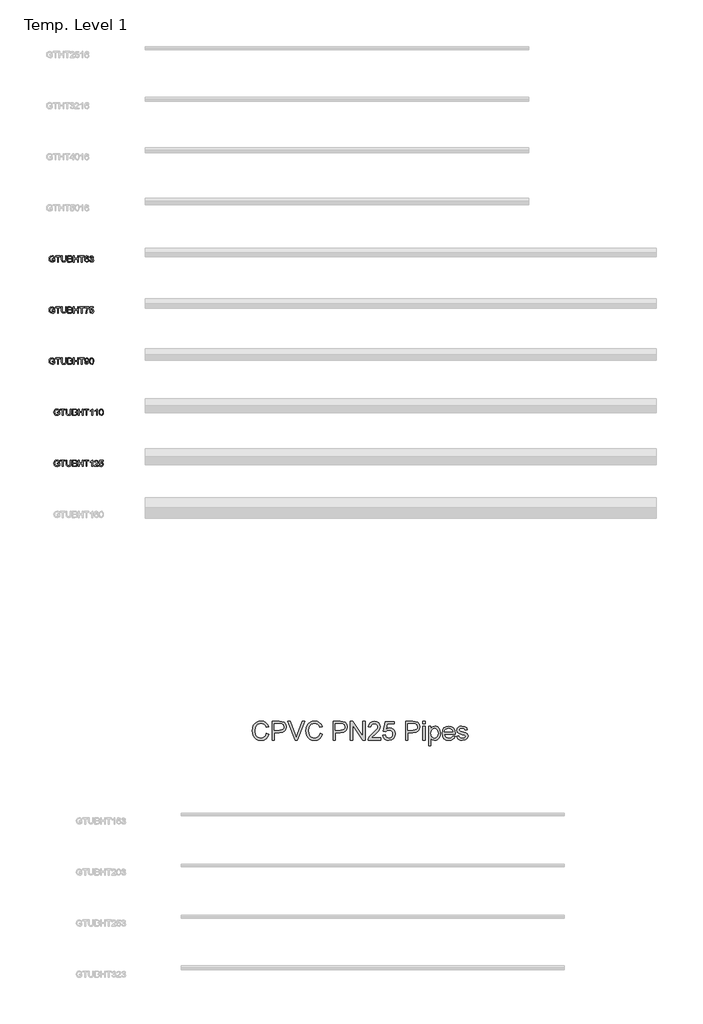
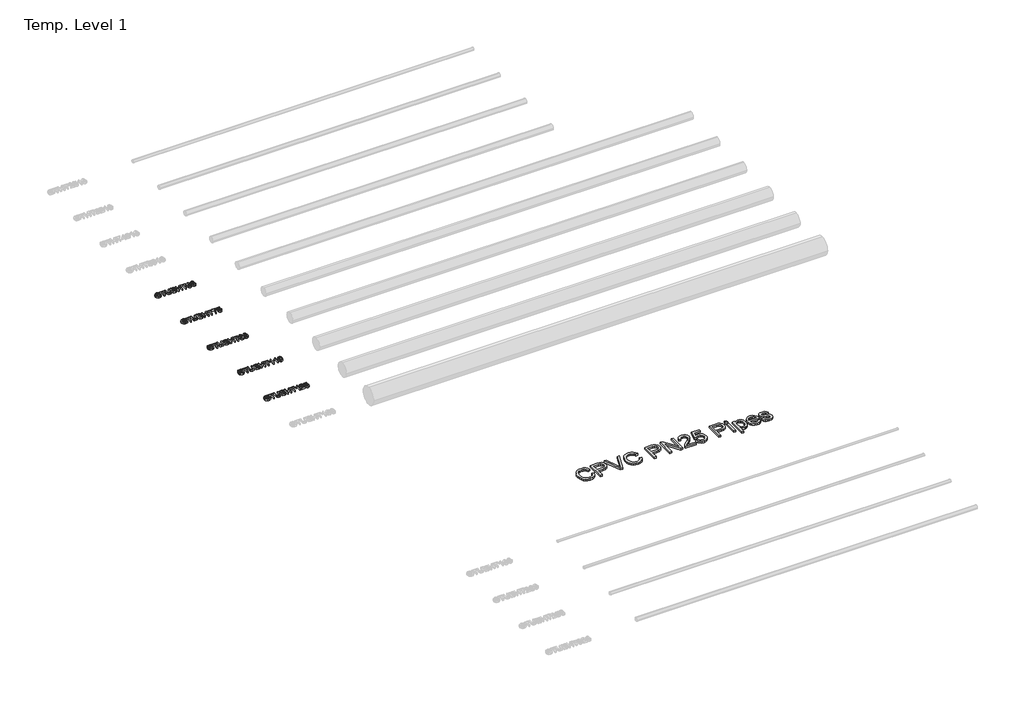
# One storey, part 8 of 62: 6 proxies.
"""IFC4 building model written with IfcOpenShell, lengths in millimetres."""

from ifc_helpers import new_model, si_unit, origin, origin_with_axes, place, context, project, spatial, polyline, outline, extrude, element, save

model = new_model("IFC4")

# Units and contexts
model_context = context("Model", 3, world=origin())
ifc_project = project(units=[si_unit("LENGTHUNIT", "METRE", prefix="MILLI")], contexts=[model_context])

# Site, building, storey
site = spatial("IfcSite", under=ifc_project)
building = spatial("IfcBuilding", under=site)
storey = spatial("IfcBuildingStorey", under=building, Name="Temp. Level 1", Elevation=0.0)

# Proxies
placement = place(None, origin())
element("IfcBuildingElementProxy", 1, Name="150mm Arial", ObjectType="150mm Arial", at=placement, inside=storey, context=model_context, shape_type="SweptSolid", body=[
    extrude(outline(polyline([(3911.5022519, -3988.4933589), (3929.9637904, -3993.2529743), (3921.4451606, -4014.765895), (3908.0767712, -4030.4825416), (3890.516675, -4040.0964238), (3869.422925, -4043.3010512), (3848.009163, -4040.8761714), (3831.0034538, -4033.601532), (3817.9685981, -4021.7295368), (3808.4673962, -4005.5125897), (3802.6666149, -3986.4470849), (3800.7330212, -3966.0294166), (3802.9190188, -3944.4939599), (3809.4770115, -3925.8972051), (3820.0644514, -3910.8295969), (3834.3387904, -3899.8815801), (3851.2678769, -3893.2154142), (3869.8195596, -3890.9933589), (3890.0614466, -3893.8689599), (3906.7967231, -3902.4957628), (3919.5025524, -3916.3419166), (3927.6560981, -3934.8755704), (3909.1945596, -3939.2746089), (3902.7943192, -3925.811568), (3894.0503288, -3916.5762916), (3882.8544154, -3911.2352459), (3869.0984058, -3909.4548974), (3853.2420356, -3911.429056), (3840.2161942, -3917.351532), (3830.3318793, -3926.6003301), (3823.9000885, -3938.5534551), (3819.1945596, -3965.9933589), (3824.7654731, -3997.7962435), (3831.8868673, -4009.6727459), (3842.1092231, -4018.1147531), (3854.3643313, -4023.1583229), (3867.5839827, -4024.8395128), (3882.9941389, -4022.5498493), (3895.8351846, -4015.6808589), (3905.5301966, -4004.304657), (3911.5022519, -3988.4933589)])), origin_with_axes(), (0.0, 0.0, 1.0), 15.0),
    extrude(outline(polyline([(3955.3484058, -4040.9933589), (3955.3484058, -3893.3010512), (4010.0839827, -3893.3010512), (4032.1512904, -3894.7073012), (4050.0899923, -3901.6123493), (4061.7185981, -3915.8911954), (4066.1176365, -3936.0294166), (4063.1473841, -3953.4362676), (4054.2366269, -3967.9404743), (4037.5734659, -3977.7301378), (4011.3460019, -3980.9933589), (3973.8099442, -3980.9933589), (3973.8099442, -4040.9933589), (3955.3484058, -4040.9933589)]), holes=[polyline([(3973.8099442, -3962.5318204), (4012.4277327, -3962.5318204), (4028.797925, -3960.8371089), (4039.6152327, -3955.7529743), (4045.6458817, -3947.5949214), (4047.6560981, -3936.6784551), (4042.9145115, -3921.3899935), (4030.4565788, -3913.0246089), (4011.9950404, -3911.7625897), (3973.8099442, -3911.7625897), (3973.8099442, -3962.5318204)])]), origin_with_axes(), (0.0, 0.0, 1.0), 15.0),
    extrude(outline(polyline([(4135.1320596, -4040.9933589), (4076.3580212, -3893.3010512), (4096.1176365, -3893.3010512), (4135.4565788, -3999.7073012), (4143.4253288, -4023.6856666), (4151.2859058, -3999.7073012), (4190.7330212, -3893.3010512), (4210.4926365, -3893.3010512), (4154.2065788, -4040.9933589), (4135.1320596, -4040.9933589)])), origin_with_axes(), (0.0, 0.0, 1.0), 15.0),
    extrude(outline(polyline([(4331.5022519, -3988.4933589), (4349.9637904, -3993.2529743), (4341.4451606, -4014.765895), (4328.0767712, -4030.4825416), (4310.516675, -4040.0964238), (4289.422925, -4043.3010512), (4268.009163, -4040.8761714), (4251.0034538, -4033.601532), (4237.9685981, -4021.7295368), (4228.4673962, -4005.5125897), (4222.6666149, -3986.4470849), (4220.7330212, -3966.0294166), (4222.9190188, -3944.4939599), (4229.4770115, -3925.8972051), (4240.0644514, -3910.8295969), (4254.3387904, -3899.8815801), (4271.2678769, -3893.2154142), (4289.8195596, -3890.9933589), (4310.0614466, -3893.8689599), (4326.7967231, -3902.4957628), (4339.5025524, -3916.3419166), (4347.6560981, -3934.8755704), (4329.1945596, -3939.2746089), (4322.7943192, -3925.811568), (4314.0503288, -3916.5762916), (4302.8544154, -3911.2352459), (4289.0984058, -3909.4548974), (4273.2420356, -3911.429056), (4260.2161942, -3917.351532), (4250.3318793, -3926.6003301), (4243.9000885, -3938.5534551), (4239.1945596, -3965.9933589), (4244.7654731, -3997.7962435), (4251.8868673, -4009.6727459), (4262.1092231, -4018.1147531), (4274.3643313, -4023.1583229), (4287.5839827, -4024.8395128), (4302.9941389, -4022.5498493), (4315.8351846, -4015.6808589), (4325.5301966, -4004.304657), (4331.5022519, -3988.4933589)])), origin_with_axes(), (0.0, 0.0, 1.0), 15.0),
    extrude(outline(polyline([(4433.0407135, -4040.9933589), (4433.0407135, -3893.3010512), (4487.7762904, -3893.3010512), (4509.8435981, -3894.7073012), (4527.7823, -3901.6123493), (4539.4109058, -3915.8911954), (4543.8099442, -3936.0294166), (4540.8396918, -3953.4362676), (4531.9289346, -3967.9404743), (4515.2657736, -3977.7301378), (4489.0383096, -3980.9933589), (4451.5022519, -3980.9933589), (4451.5022519, -4040.9933589), (4433.0407135, -4040.9933589)]), holes=[polyline([(4451.5022519, -3962.5318204), (4490.1200404, -3962.5318204), (4506.4902327, -3960.8371089), (4517.3075404, -3955.7529743), (4523.3381894, -3947.5949214), (4525.3484058, -3936.6784551), (4520.6068192, -3921.3899935), (4508.1488865, -3913.0246089), (4489.6873481, -3911.7625897), (4451.5022519, -3911.7625897), (4451.5022519, -3962.5318204)])]), origin_with_axes(), (0.0, 0.0, 1.0), 15.0),
    extrude(outline(polyline([(4569.1945596, -4040.9933589), (4569.1945596, -3893.3010512), (4588.954175, -3893.3010512), (4666.1176365, -4010.3082628), (4666.1176365, -3893.3010512), (4684.579175, -3893.3010512), (4684.579175, -4040.9933589), (4664.8195596, -4040.9933589), (4587.6560981, -3923.9500897), (4587.6560981, -4040.9933589), (4569.1945596, -4040.9933589)])), origin_with_axes(), (0.0, 0.0, 1.0), 15.0),
    extrude(outline(polyline([(4804.579175, -4022.5318204), (4804.579175, -4040.9933589), (4707.6560981, -4040.9933589), (4709.6392712, -4028.2649935), (4720.8532135, -4008.6676378), (4743.9661942, -3987.2673974), (4775.8411942, -3956.5101858), (4781.8177567, -3945.9092243), (4783.8099442, -3935.5967243), (4781.930437, -3926.3524334), (4776.2919154, -3918.6676378), (4767.6245476, -3913.4888517), (4756.6585019, -3911.7625897), (4745.1425764, -3913.4482868), (4736.1957615, -3918.5053781), (4730.4220236, -3926.5372291), (4728.4253288, -3937.1472051), (4709.9637904, -3934.8395128), (4714.4394514, -3916.9819406), (4724.1164346, -3903.9380704), (4738.4899322, -3895.960306), (4757.0551365, -3893.3010512), (4775.7555572, -3896.257782), (4790.1020115, -3905.1279743), (4799.2291149, -3918.3791762), (4802.2714827, -3934.4789358), (4798.9902327, -3951.9849454), (4788.0827808, -3970.085907), (4761.6344635, -3995.3803781), (4740.3964827, -4013.1387916), (4732.0671558, -4022.5318204), (4804.579175, -4022.5318204)])), origin_with_axes(), (0.0, 0.0, 1.0), 15.0),
    extrude(outline(polyline([(4823.0407135, -4001.7625897), (4841.5022519, -3999.4548974), (4844.891675, -4010.5381305), (4850.8051365, -4018.4753301), (4859.2155933, -4023.2484671), (4870.0960019, -4024.8395128), (4883.329175, -4022.6264719), (4893.2450404, -4015.9873493), (4899.437949, -4005.6883709), (4901.5022519, -3992.4957628), (4899.5686582, -3980.0738878), (4893.7678769, -3970.5726858), (4884.0548361, -3964.5420368), (4870.3844635, -3962.5318204), (4854.1765308, -3965.7409551), (4843.8099442, -3974.070282), (4825.3484058, -3971.7625897), (4841.5022519, -3895.6087435), (4913.0407135, -3895.6087435), (4913.0407135, -3914.070282), (4856.4301365, -3914.070282), (4848.5335019, -3954.7433589), (4861.7216029, -3946.7385512), (4875.5407135, -3944.070282), (4892.789812, -3947.3785753), (4907.1092231, -3957.3034551), (4916.7501486, -3972.429657), (4919.9637904, -3991.3419166), (4917.0701606, -4009.8034551), (4908.3892712, -4025.5967243), (4891.766675, -4038.8749695), (4870.0238865, -4043.3010512), (4851.8913745, -4040.4570007), (4837.4457615, -4031.9248493), (4827.5434178, -4018.6961834), (4823.0407135, -4001.7625897)])), origin_with_axes(), (0.0, 0.0, 1.0), 15.0),
    extrude(outline(polyline([(5000.7330212, -4040.9933589), (5000.7330212, -3893.3010512), (5055.4685981, -3893.3010512), (5077.5359058, -3894.7073012), (5095.4746077, -3901.6123493), (5107.1032135, -3915.8911954), (5111.5022519, -3936.0294166), (5108.5319995, -3953.4362676), (5099.6212423, -3967.9404743), (5082.9580813, -3977.7301378), (5056.7306173, -3980.9933589), (5019.1945596, -3980.9933589), (5019.1945596, -4040.9933589), (5000.7330212, -4040.9933589)]), holes=[polyline([(5019.1945596, -3962.5318204), (5057.8123481, -3962.5318204), (5074.1825404, -3960.8371089), (5084.9998481, -3955.7529743), (5091.0304971, -3947.5949214), (5093.0407135, -3936.6784551), (5088.2991269, -3921.3899935), (5075.8411942, -3913.0246089), (5057.3796558, -3911.7625897), (5019.1945596, -3911.7625897), (5019.1945596, -3962.5318204)])]), origin_with_axes(), (0.0, 0.0, 1.0), 15.0),
    extrude(outline(polyline([(5134.579175, -3911.7625897), (5134.579175, -3893.3010512), (5153.0407135, -3893.3010512), (5153.0407135, -3911.7625897), (5134.579175, -3911.7625897)])), origin_with_axes(), (0.0, 0.0, 1.0), 15.0),
    extrude(outline(polyline([(5134.579175, -4040.9933589), (5134.579175, -3932.5318204), (5153.0407135, -3932.5318204), (5153.0407135, -4040.9933589), (5134.579175, -4040.9933589)])), origin_with_axes(), (0.0, 0.0, 1.0), 15.0),
    extrude(outline(polyline([(5180.7330212, -4082.5318204), (5180.7330212, -3932.5318204), (5199.1945596, -3932.5318204), (5199.1945596, -3950.632782), (5211.9589827, -3935.3262916), (5229.1945596, -3930.2241281), (5241.6795356, -3932.0089839), (5252.5960019, -3937.3635512), (5261.4842231, -3945.9633108), (5267.8844635, -3957.4837435), (5273.0407135, -3985.9332628), (5271.5848841, -4001.7220248), (5267.2173962, -4015.8431185), (5260.0779731, -4027.5798974), (5250.3063385, -4036.2157147), (5238.9256293, -4041.5297171), (5226.9589827, -4043.3010512), (5210.8952808, -4038.5594647), (5199.1945596, -4026.570282), (5199.1945596, -4082.5318204), (5180.7330212, -4082.5318204)]), holes=[polyline([(5199.1945596, -3987.6279743), (5201.1912543, -4004.1784551), (5207.1813385, -4015.7529743), (5216.0199803, -4022.5678781), (5226.5623481, -4024.8395128), (5237.2759899, -4022.4867483), (5246.3399923, -4015.4284551), (5252.5193793, -4003.4302579), (5254.579175, -3986.257782), (5252.5689587, -3969.7974454), (5246.5383096, -3958.0606666), (5237.7131894, -3951.0294166), (5227.3195596, -3948.6856666), (5216.8853649, -3951.1781546), (5207.7222038, -3958.6556185), (5201.3264707, -3970.8836834), (5199.1945596, -3987.6279743)])]), origin_with_axes(), (0.0, 0.0, 1.0), 15.0),
    extrude(outline(polyline([(5369.7474442, -4008.6856666), (5387.8484058, -4010.9933589), (5381.3264707, -4024.632181), (5370.9193192, -4034.8274935), (5356.8613264, -4041.1826618), (5339.3868673, -4043.3010512), (5317.7252087, -4039.6457027), (5301.0575404, -4028.679657), (5290.4295356, -4011.1150536), (5286.8868673, -3987.664032), (5290.4655933, -3963.4242483), (5301.2017712, -3945.2962435), (5317.6440788, -3933.992157), (5338.3411942, -3930.2241281), (5358.3937784, -3933.9831426), (5374.4169154, -3945.2601858), (5384.9232255, -3963.3521329), (5388.4253288, -3987.5558589), (5388.3171558, -3992.5318204), (5305.3484058, -3992.5318204), (5308.5440188, -4006.350931), (5315.9673962, -4016.5101858), (5326.681038, -4022.757181), (5339.7474442, -4024.8395128), (5357.8484058, -4020.9813397), (5369.7474442, -4008.6856666)]), holes=[polyline([(5305.3484058, -3974.070282), (5369.9637904, -3974.070282), (5367.4667952, -3964.3166762), (5362.5719635, -3957.3395128), (5351.8087423, -3950.8491281), (5338.2690788, -3948.6856666), (5325.8246678, -3950.4119286), (5315.5347038, -3955.5907147), (5308.3817591, -3963.6631305), (5305.3484058, -3974.070282)])]), origin_with_axes(), (0.0, 0.0, 1.0), 15.0),
    extrude(outline(polyline([(5399.9637904, -4008.6856666), (5418.4253288, -4006.3779743), (5421.3369875, -4014.2746089), (5426.9710019, -4020.0798974), (5446.5503288, -4024.8395128), (5465.3724442, -4020.476532), (5471.5022519, -4010.2361474), (5465.3363865, -4001.9428781), (5446.3339827, -3996.6784551), (5418.5335019, -3987.6460031), (5406.4000885, -3977.0991281), (5402.2714827, -3962.2073012), (5405.5887904, -3948.4512916), (5414.6392712, -3937.9404743), (5426.37605, -3932.4777339), (5442.2594635, -3930.2241281), (5464.7234058, -3933.8479262), (5479.0022519, -3943.6556185), (5485.3484058, -3960.2241281), (5466.8868673, -3962.5318204), (5459.9457615, -3952.3455224), (5443.7017712, -3948.6856666), (5426.0335019, -3952.1832628), (5420.7330212, -3960.3323012), (5422.9325404, -3965.7048974), (5429.8195596, -3969.7794166), (5445.7210019, -3973.7097051), (5472.8183577, -3982.3996089), (5485.4024923, -3992.2433589), (5489.9637904, -4008.289032), (5484.6092231, -4025.9573012), (5469.1585019, -4038.7758108), (5446.297925, -4043.3010512), (5427.6831413, -4041.1195608), (5414.0984058, -4034.5750897), (5405.0298962, -4023.7397531), (5399.9637904, -4008.6856666)])), origin_with_axes(), (0.0, 0.0, 1.0), 15.0),
])
element("IfcBuildingElementProxy", 2, Name="50mm Arial", ObjectType="50mm Arial", at=placement, inside=storey, context=model_context, shape_type="SweptSolid", body=[
    extrude(outline(polyline([(2234.4064463, -278.4984888), (2234.4064463, -272.3446426), (2254.4064463, -272.3446426), (2254.4064463, -290.7460849), (2244.5326483, -296.5513734), (2234.0939463, -298.4984888), (2220.9509175, -295.4035368), (2212.0326483, -286.4432003), (2209.0218309, -273.354258), (2212.020629, -259.9708445), (2220.6444271, -250.7460849), (2233.6011579, -247.729258), (2243.2285617, -249.4780561), (2249.9773598, -254.3458445), (2253.6973117, -262.4888734), (2248.0242348, -264.0874311), (2245.2177444, -258.3963253), (2240.4220713, -255.1150753), (2233.505004, -253.8831042), (2225.6263983, -255.2112292), (2220.2658213, -258.6968061), (2217.098754, -263.4383926), (2215.1756771, -273.1018542), (2217.489379, -283.8290176), (2224.2201483, -290.2472868), (2233.6011579, -292.3446426), (2242.020629, -290.7641138), (2248.2526002, -287.3927195), (2248.2526002, -278.4984888), (2234.4064463, -278.4984888)])), origin_with_axes(), (0.0, 0.0, 1.0), 15.0),
    extrude(outline(polyline([(2276.7141386, -297.729258), (2276.7141386, -254.6523349), (2260.5602925, -254.6523349), (2260.5602925, -248.4984888), (2299.0218309, -248.4984888), (2299.0218309, -254.6523349), (2282.8679848, -254.6523349), (2282.8679848, -297.729258), (2276.7141386, -297.729258)])), origin_with_axes(), (0.0, 0.0, 1.0), 15.0),
    extrude(outline(polyline([(2338.2526002, -248.4984888), (2344.4064463, -248.4984888), (2344.4064463, -276.8999311), (2342.7357733, -288.6727676), (2336.7141386, -295.7641138), (2325.2958694, -298.4984888), (2314.051879, -296.1186811), (2307.8138983, -289.2256522), (2305.9449079, -276.8999311), (2305.9449079, -248.4984888), (2312.098754, -248.4984888), (2312.098754, -276.6835849), (2313.3126963, -286.0645945), (2317.4833694, -290.7100272), (2324.7189463, -292.3446426), (2335.1396194, -289.1114695), (2338.2526002, -276.6835849), (2338.2526002, -248.4984888)])), origin_with_axes(), (0.0, 0.0, 1.0), 15.0),
    extrude(outline(polyline([(2355.1756771, -297.729258), (2355.1756771, -248.4984888), (2373.9617348, -248.4984888), (2383.1624559, -249.9468061), (2388.5951483, -254.3999311), (2390.5602925, -260.698008), (2388.9076483, -266.4492099), (2383.9136579, -270.8061811), (2389.9773598, -275.3975272), (2392.098754, -283.0537772), (2390.6504367, -289.6703638), (2387.0626963, -294.3819022), (2381.708129, -296.8819022), (2373.817504, -297.729258), (2355.1756771, -297.729258)]), holes=[polyline([(2361.3295233, -291.5754118), (2373.9497156, -291.5754118), (2378.5170233, -291.3350272), (2382.3812059, -289.994883), (2384.9413021, -287.260508), (2385.9449079, -283.1138734), (2384.7670233, -278.3302195), (2380.9509175, -275.4756522), (2373.348754, -274.6523349), (2361.3295233, -274.6523349), (2361.3295233, -291.5754118)]), polyline([(2361.3295233, -268.4984888), (2372.567504, -268.4984888), (2379.130004, -267.9696426), (2383.0783213, -265.6919984), (2384.4064463, -261.6835849), (2383.1684656, -257.6691618), (2379.6227925, -255.2953638), (2371.7141386, -254.6523349), (2361.3295233, -254.6523349), (2361.3295233, -268.4984888)])]), origin_with_axes(), (0.0, 0.0, 1.0), 15.0),
    extrude(outline(polyline([(2400.5602925, -297.729258), (2400.5602925, -248.4984888), (2406.7141386, -248.4984888), (2406.7141386, -268.4984888), (2432.8679848, -268.4984888), (2432.8679848, -248.4984888), (2439.0218309, -248.4984888), (2439.0218309, -297.729258), (2432.8679848, -297.729258), (2432.8679848, -274.6523349), (2406.7141386, -274.6523349), (2406.7141386, -297.729258), (2400.5602925, -297.729258)])), origin_with_axes(), (0.0, 0.0, 1.0), 15.0),
    extrude(outline(polyline([(2462.098754, -297.729258), (2462.098754, -254.6523349), (2445.9449079, -254.6523349), (2445.9449079, -248.4984888), (2484.4064463, -248.4984888), (2484.4064463, -254.6523349), (2468.2526002, -254.6523349), (2468.2526002, -297.729258), (2462.098754, -297.729258)])), origin_with_axes(), (0.0, 0.0, 1.0), 15.0),
    extrude(outline(polyline([(2520.5602925, -261.5754118), (2514.4064463, -262.3446426), (2512.0747156, -257.2124311), (2505.9088502, -254.6523349), (2500.3559656, -256.1427195), (2496.1552444, -261.7376715), (2494.4064463, -272.7052195), (2499.833129, -267.7953638), (2506.5578886, -266.1907965), (2517.0146194, -270.5778157), (2521.3295233, -281.9119503), (2519.2982733, -290.4035368), (2513.7093309, -296.4131522), (2505.6444271, -298.4984888), (2493.1023598, -292.9696426), (2489.4650401, -285.6499311), (2488.2526002, -274.7484888), (2489.598754, -262.4918782), (2493.6372156, -254.1114695), (2499.1510377, -249.901734), (2506.2934656, -248.4984888), (2516.0170233, -251.9720465), (2520.5602925, -261.5754118)]), holes=[polyline([(2494.4064463, -281.8157965), (2495.8307252, -287.1463253), (2499.6167829, -291.0165176), (2505.1636579, -292.3446426), (2512.4172636, -289.5922388), (2515.1756771, -282.1162772), (2512.4533213, -274.9588253), (2504.911254, -272.3446426), (2497.4653406, -274.9588253), (2494.4064463, -281.8157965)])]), origin_with_axes(), (0.0, 0.0, 1.0), 15.0),
    extrude(outline(polyline([(2526.7141386, -284.6523349), (2532.8679848, -283.8831042), (2536.2634175, -290.3614695), (2542.6155809, -292.3446426), (2550.0915425, -289.6162772), (2552.8679848, -282.8614695), (2550.1155809, -276.4972868), (2543.1203886, -273.979258), (2538.8054848, -274.6523349), (2539.4905809, -268.4984888), (2547.4593309, -266.8037772), (2550.5602925, -261.3710849), (2548.3126963, -256.557383), (2542.5194271, -254.6523349), (2536.6540425, -256.5754118), (2533.6372156, -262.3446426), (2527.4833694, -261.5754118), (2532.5194271, -251.9239695), (2542.3030809, -248.4984888), (2549.7249559, -250.1871907), (2554.9172636, -254.8025753), (2556.7141386, -261.010508), (2555.0074079, -266.6835849), (2549.9593309, -270.7581042), (2556.6660617, -274.9648349), (2559.0218309, -282.9696426), (2554.3102925, -293.979258), (2542.3992348, -298.4984888), (2531.6059656, -294.6403157), (2526.7141386, -284.6523349)])), origin_with_axes(), (0.0, 0.0, 1.0), 15.0),
])
element("IfcBuildingElementProxy", 3, Name="50mm Arial", ObjectType="50mm Arial", at=placement, inside=storey, context=model_context, shape_type="SweptSolid", body=[
    extrude(outline(polyline([(2234.4064463, -678.4984888), (2234.4064463, -672.3446426), (2254.4064463, -672.3446426), (2254.4064463, -690.7460849), (2244.5326483, -696.5513734), (2234.0939463, -698.4984888), (2220.9509175, -695.4035368), (2212.0326483, -686.4432003), (2209.0218309, -673.354258), (2212.020629, -659.9708445), (2220.6444271, -650.7460849), (2233.6011579, -647.729258), (2243.2285617, -649.4780561), (2249.9773598, -654.3458445), (2253.6973117, -662.4888734), (2248.0242348, -664.0874311), (2245.2177444, -658.3963253), (2240.4220713, -655.1150753), (2233.505004, -653.8831042), (2225.6263983, -655.2112292), (2220.2658213, -658.6968061), (2217.098754, -663.4383926), (2215.1756771, -673.1018542), (2217.489379, -683.8290176), (2224.2201483, -690.2472868), (2233.6011579, -692.3446426), (2242.020629, -690.7641138), (2248.2526002, -687.3927195), (2248.2526002, -678.4984888), (2234.4064463, -678.4984888)])), origin_with_axes(), (0.0, 0.0, 1.0), 15.0),
    extrude(outline(polyline([(2276.7141386, -697.729258), (2276.7141386, -654.6523349), (2260.5602925, -654.6523349), (2260.5602925, -648.4984888), (2299.0218309, -648.4984888), (2299.0218309, -654.6523349), (2282.8679848, -654.6523349), (2282.8679848, -697.729258), (2276.7141386, -697.729258)])), origin_with_axes(), (0.0, 0.0, 1.0), 15.0),
    extrude(outline(polyline([(2338.2526002, -648.4984888), (2344.4064463, -648.4984888), (2344.4064463, -676.8999311), (2342.7357733, -688.6727676), (2336.7141386, -695.7641138), (2325.2958694, -698.4984888), (2314.051879, -696.1186811), (2307.8138983, -689.2256522), (2305.9449079, -676.8999311), (2305.9449079, -648.4984888), (2312.098754, -648.4984888), (2312.098754, -676.6835849), (2313.3126963, -686.0645945), (2317.4833694, -690.7100272), (2324.7189463, -692.3446426), (2335.1396194, -689.1114695), (2338.2526002, -676.6835849), (2338.2526002, -648.4984888)])), origin_with_axes(), (0.0, 0.0, 1.0), 15.0),
    extrude(outline(polyline([(2355.1756771, -697.729258), (2355.1756771, -648.4984888), (2373.9617348, -648.4984888), (2383.1624559, -649.9468061), (2388.5951483, -654.3999311), (2390.5602925, -660.698008), (2388.9076483, -666.4492099), (2383.9136579, -670.8061811), (2389.9773598, -675.3975272), (2392.098754, -683.0537772), (2390.6504367, -689.6703638), (2387.0626963, -694.3819022), (2381.708129, -696.8819022), (2373.817504, -697.729258), (2355.1756771, -697.729258)]), holes=[polyline([(2361.3295233, -691.5754118), (2373.9497156, -691.5754118), (2378.5170233, -691.3350272), (2382.3812059, -689.994883), (2384.9413021, -687.260508), (2385.9449079, -683.1138734), (2384.7670233, -678.3302195), (2380.9509175, -675.4756522), (2373.348754, -674.6523349), (2361.3295233, -674.6523349), (2361.3295233, -691.5754118)]), polyline([(2361.3295233, -668.4984888), (2372.567504, -668.4984888), (2379.130004, -667.9696426), (2383.0783213, -665.6919984), (2384.4064463, -661.6835849), (2383.1684656, -657.6691618), (2379.6227925, -655.2953638), (2371.7141386, -654.6523349), (2361.3295233, -654.6523349), (2361.3295233, -668.4984888)])]), origin_with_axes(), (0.0, 0.0, 1.0), 15.0),
    extrude(outline(polyline([(2400.5602925, -697.729258), (2400.5602925, -648.4984888), (2406.7141386, -648.4984888), (2406.7141386, -668.4984888), (2432.8679848, -668.4984888), (2432.8679848, -648.4984888), (2439.0218309, -648.4984888), (2439.0218309, -697.729258), (2432.8679848, -697.729258), (2432.8679848, -674.6523349), (2406.7141386, -674.6523349), (2406.7141386, -697.729258), (2400.5602925, -697.729258)])), origin_with_axes(), (0.0, 0.0, 1.0), 15.0),
    extrude(outline(polyline([(2462.098754, -697.729258), (2462.098754, -654.6523349), (2445.9449079, -654.6523349), (2445.9449079, -648.4984888), (2484.4064463, -648.4984888), (2484.4064463, -654.6523349), (2468.2526002, -654.6523349), (2468.2526002, -697.729258), (2462.098754, -697.729258)])), origin_with_axes(), (0.0, 0.0, 1.0), 15.0),
    extrude(outline(polyline([(2489.0218309, -655.4215657), (2489.0218309, -649.2677195), (2521.3295233, -649.2677195), (2521.3295233, -654.2436811), (2512.1648598, -667.4828638), (2505.1516386, -684.3518542), (2502.8679848, -697.729258), (2496.7141386, -697.729258), (2499.1600521, -683.8470465), (2505.8727925, -668.1559407), (2515.1756771, -655.4215657), (2489.0218309, -655.4215657)])), origin_with_axes(), (0.0, 0.0, 1.0), 15.0),
    extrude(outline(polyline([(2526.7141386, -684.6523349), (2532.8679848, -683.8831042), (2535.9689463, -690.2232484), (2542.3992348, -692.3446426), (2550.1155809, -689.3939215), (2552.8679848, -681.5633926), (2550.2898598, -674.2557003), (2542.4953886, -671.5754118), (2537.0927444, -672.6451234), (2533.6372156, -675.4215657), (2527.4833694, -674.6523349), (2532.8679848, -649.2677195), (2556.7141386, -649.2677195), (2556.7141386, -655.4215657), (2537.8439463, -655.4215657), (2535.2117348, -668.979258), (2544.2141386, -665.4215657), (2554.7369752, -669.8326234), (2559.0218309, -681.1787772), (2555.1636579, -692.5970465), (2549.6227925, -697.0231282), (2542.3751963, -698.4984888), (2531.5158213, -694.7064215), (2526.7141386, -684.6523349)])), origin_with_axes(), (0.0, 0.0, 1.0), 15.0),
])
element("IfcBuildingElementProxy", 4, Name="50mm Arial", ObjectType="50mm Arial", at=placement, inside=storey, context=model_context, shape_type="SweptSolid", body=[
    extrude(outline(polyline([(2234.4064463, -1078.4984888), (2234.4064463, -1072.3446426), (2254.4064463, -1072.3446426), (2254.4064463, -1090.7460849), (2244.5326483, -1096.5513734), (2234.0939463, -1098.4984888), (2220.9509175, -1095.4035368), (2212.0326483, -1086.4432003), (2209.0218309, -1073.354258), (2212.020629, -1059.9708445), (2220.6444271, -1050.7460849), (2233.6011579, -1047.729258), (2243.2285617, -1049.4780561), (2249.9773598, -1054.3458445), (2253.6973117, -1062.4888734), (2248.0242348, -1064.0874311), (2245.2177444, -1058.3963253), (2240.4220713, -1055.1150753), (2233.505004, -1053.8831042), (2225.6263983, -1055.2112292), (2220.2658213, -1058.6968061), (2217.098754, -1063.4383926), (2215.1756771, -1073.1018542), (2217.489379, -1083.8290176), (2224.2201483, -1090.2472868), (2233.6011579, -1092.3446426), (2242.020629, -1090.7641138), (2248.2526002, -1087.3927195), (2248.2526002, -1078.4984888), (2234.4064463, -1078.4984888)])), origin_with_axes(), (0.0, 0.0, 1.0), 15.0),
    extrude(outline(polyline([(2276.7141386, -1097.729258), (2276.7141386, -1054.6523349), (2260.5602925, -1054.6523349), (2260.5602925, -1048.4984888), (2299.0218309, -1048.4984888), (2299.0218309, -1054.6523349), (2282.8679848, -1054.6523349), (2282.8679848, -1097.729258), (2276.7141386, -1097.729258)])), origin_with_axes(), (0.0, 0.0, 1.0), 15.0),
    extrude(outline(polyline([(2338.2526002, -1048.4984888), (2344.4064463, -1048.4984888), (2344.4064463, -1076.8999311), (2342.7357733, -1088.6727676), (2336.7141386, -1095.7641138), (2325.2958694, -1098.4984888), (2314.051879, -1096.1186811), (2307.8138983, -1089.2256522), (2305.9449079, -1076.8999311), (2305.9449079, -1048.4984888), (2312.098754, -1048.4984888), (2312.098754, -1076.6835849), (2313.3126963, -1086.0645945), (2317.4833694, -1090.7100272), (2324.7189463, -1092.3446426), (2335.1396194, -1089.1114695), (2338.2526002, -1076.6835849), (2338.2526002, -1048.4984888)])), origin_with_axes(), (0.0, 0.0, 1.0), 15.0),
    extrude(outline(polyline([(2355.1756771, -1097.729258), (2355.1756771, -1048.4984888), (2373.9617348, -1048.4984888), (2383.1624559, -1049.9468061), (2388.5951483, -1054.3999311), (2390.5602925, -1060.698008), (2388.9076483, -1066.4492099), (2383.9136579, -1070.8061811), (2389.9773598, -1075.3975272), (2392.098754, -1083.0537772), (2390.6504367, -1089.6703638), (2387.0626963, -1094.3819022), (2381.708129, -1096.8819022), (2373.817504, -1097.729258), (2355.1756771, -1097.729258)]), holes=[polyline([(2361.3295233, -1091.5754118), (2373.9497156, -1091.5754118), (2378.5170233, -1091.3350272), (2382.3812059, -1089.994883), (2384.9413021, -1087.260508), (2385.9449079, -1083.1138734), (2384.7670233, -1078.3302195), (2380.9509175, -1075.4756522), (2373.348754, -1074.6523349), (2361.3295233, -1074.6523349), (2361.3295233, -1091.5754118)]), polyline([(2361.3295233, -1068.4984888), (2372.567504, -1068.4984888), (2379.130004, -1067.9696426), (2383.0783213, -1065.6919984), (2384.4064463, -1061.6835849), (2383.1684656, -1057.6691618), (2379.6227925, -1055.2953638), (2371.7141386, -1054.6523349), (2361.3295233, -1054.6523349), (2361.3295233, -1068.4984888)])]), origin_with_axes(), (0.0, 0.0, 1.0), 15.0),
    extrude(outline(polyline([(2400.5602925, -1097.729258), (2400.5602925, -1048.4984888), (2406.7141386, -1048.4984888), (2406.7141386, -1068.4984888), (2432.8679848, -1068.4984888), (2432.8679848, -1048.4984888), (2439.0218309, -1048.4984888), (2439.0218309, -1097.729258), (2432.8679848, -1097.729258), (2432.8679848, -1074.6523349), (2406.7141386, -1074.6523349), (2406.7141386, -1097.729258), (2400.5602925, -1097.729258)])), origin_with_axes(), (0.0, 0.0, 1.0), 15.0),
    extrude(outline(polyline([(2462.098754, -1097.729258), (2462.098754, -1054.6523349), (2445.9449079, -1054.6523349), (2445.9449079, -1048.4984888), (2484.4064463, -1048.4984888), (2484.4064463, -1054.6523349), (2468.2526002, -1054.6523349), (2468.2526002, -1097.729258), (2462.098754, -1097.729258)])), origin_with_axes(), (0.0, 0.0, 1.0), 15.0),
    extrude(outline(polyline([(2489.7910617, -1085.4215657), (2495.9449079, -1084.6523349), (2498.7093309, -1090.5237292), (2503.9497156, -1092.3446426), (2508.9316867, -1091.1727676), (2512.3090906, -1088.041758), (2514.3223117, -1082.6932003), (2515.2117348, -1075.5537772), (2510.2538021, -1079.0153157), (2503.505004, -1080.8061811), (2493.2225521, -1076.4311811), (2489.0218309, -1064.9047388), (2493.426879, -1053.0057003), (2504.4665425, -1048.4984888), (2513.2345713, -1051.0706042), (2519.2682252, -1058.4023349), (2521.3295233, -1072.1763734), (2519.2742348, -1087.1222868), (2513.1624559, -1095.5898349), (2503.661254, -1098.4984888), (2494.2021194, -1095.0669984), (2489.7910617, -1085.4215657)]), holes=[polyline([(2515.1756771, -1064.760508), (2512.5194271, -1057.3807003), (2505.4641386, -1054.6523349), (2498.0602925, -1057.5910368), (2495.1756771, -1065.2052195), (2497.9040425, -1072.026133), (2505.2958694, -1074.6523349), (2512.3932252, -1072.026133), (2515.1756771, -1064.760508)])]), origin_with_axes(), (0.0, 0.0, 1.0), 15.0),
    extrude(outline(polyline([(2526.7141386, -1073.510508), (2528.5230329, -1059.3458445), (2533.895629, -1051.1787772), (2542.8679848, -1048.4984888), (2550.0554848, -1050.0850272), (2555.0194271, -1054.6583445), (2557.9040425, -1061.9419984), (2559.0218309, -1073.510508), (2557.2309656, -1087.6150753), (2551.8763983, -1095.8001715), (2542.8679848, -1098.4984888), (2531.6179848, -1093.8109888), (2527.9401002, -1085.4846667), (2526.7141386, -1073.510508)]), holes=[polyline([(2532.8679848, -1073.4984888), (2535.7526002, -1088.7809407), (2542.8679848, -1092.3446426), (2549.9833694, -1088.7689215), (2552.8679848, -1073.4984888), (2550.0795233, -1058.3903157), (2542.7958694, -1054.6523349), (2535.848754, -1057.9456042), (2532.8679848, -1073.4984888)])]), origin_with_axes(), (0.0, 0.0, 1.0), 15.0),
])
element("IfcBuildingElementProxy", 5, Name="50mm Arial", ObjectType="50mm Arial", at=placement, inside=storey, context=model_context, shape_type="SweptSolid", body=[
    extrude(outline(polyline([(2272.098754, -1478.4984888), (2272.098754, -1472.3446426), (2292.098754, -1472.3446426), (2292.098754, -1490.7460849), (2282.2249559, -1496.5513734), (2271.786254, -1498.4984888), (2258.6432252, -1495.4035368), (2249.7249559, -1486.4432003), (2246.7141386, -1473.354258), (2249.7129367, -1459.9708445), (2258.3367348, -1450.7460849), (2271.2934656, -1447.729258), (2280.9208694, -1449.4780561), (2287.6696675, -1454.3458445), (2291.3896194, -1462.4888734), (2285.7165425, -1464.0874311), (2282.9100521, -1458.3963253), (2278.114379, -1455.1150753), (2271.1973117, -1453.8831042), (2263.3187059, -1455.2112292), (2257.958129, -1458.6968061), (2254.7910617, -1463.4383926), (2252.8679848, -1473.1018542), (2255.1816867, -1483.8290176), (2261.9124559, -1490.2472868), (2271.2934656, -1492.3446426), (2279.7129367, -1490.7641138), (2285.9449079, -1487.3927195), (2285.9449079, -1478.4984888), (2272.098754, -1478.4984888)])), origin_with_axes(), (0.0, 0.0, 1.0), 15.0),
    extrude(outline(polyline([(2314.4064463, -1497.729258), (2314.4064463, -1454.6523349), (2298.2526002, -1454.6523349), (2298.2526002, -1448.4984888), (2336.7141386, -1448.4984888), (2336.7141386, -1454.6523349), (2320.5602925, -1454.6523349), (2320.5602925, -1497.729258), (2314.4064463, -1497.729258)])), origin_with_axes(), (0.0, 0.0, 1.0), 15.0),
    extrude(outline(polyline([(2375.9449079, -1448.4984888), (2382.098754, -1448.4984888), (2382.098754, -1476.8999311), (2380.4280809, -1488.6727676), (2374.4064463, -1495.7641138), (2362.9881771, -1498.4984888), (2351.7441867, -1496.1186811), (2345.5062059, -1489.2256522), (2343.6372156, -1476.8999311), (2343.6372156, -1448.4984888), (2349.7910617, -1448.4984888), (2349.7910617, -1476.6835849), (2351.005004, -1486.0645945), (2355.1756771, -1490.7100272), (2362.411254, -1492.3446426), (2372.8319271, -1489.1114695), (2375.9449079, -1476.6835849), (2375.9449079, -1448.4984888)])), origin_with_axes(), (0.0, 0.0, 1.0), 15.0),
    extrude(outline(polyline([(2392.8679848, -1497.729258), (2392.8679848, -1448.4984888), (2411.6540425, -1448.4984888), (2420.8547636, -1449.9468061), (2426.2874559, -1454.3999311), (2428.2526002, -1460.698008), (2426.5999559, -1466.4492099), (2421.6059656, -1470.8061811), (2427.6696675, -1475.3975272), (2429.7910617, -1483.0537772), (2428.3427444, -1489.6703638), (2424.755004, -1494.3819022), (2419.4004367, -1496.8819022), (2411.5098117, -1497.729258), (2392.8679848, -1497.729258)]), holes=[polyline([(2399.0218309, -1491.5754118), (2411.6420233, -1491.5754118), (2416.2093309, -1491.3350272), (2420.0735136, -1489.994883), (2422.6336098, -1487.260508), (2423.6372156, -1483.1138734), (2422.4593309, -1478.3302195), (2418.6432252, -1475.4756522), (2411.0410617, -1474.6523349), (2399.0218309, -1474.6523349), (2399.0218309, -1491.5754118)]), polyline([(2399.0218309, -1468.4984888), (2410.2598117, -1468.4984888), (2416.8223117, -1467.9696426), (2420.770629, -1465.6919984), (2422.098754, -1461.6835849), (2420.8607733, -1457.6691618), (2417.3151002, -1455.2953638), (2409.4064463, -1454.6523349), (2399.0218309, -1454.6523349), (2399.0218309, -1468.4984888)])]), origin_with_axes(), (0.0, 0.0, 1.0), 15.0),
    extrude(outline(polyline([(2438.2526002, -1497.729258), (2438.2526002, -1448.4984888), (2444.4064463, -1448.4984888), (2444.4064463, -1468.4984888), (2470.5602925, -1468.4984888), (2470.5602925, -1448.4984888), (2476.7141386, -1448.4984888), (2476.7141386, -1497.729258), (2470.5602925, -1497.729258), (2470.5602925, -1474.6523349), (2444.4064463, -1474.6523349), (2444.4064463, -1497.729258), (2438.2526002, -1497.729258)])), origin_with_axes(), (0.0, 0.0, 1.0), 15.0),
    extrude(outline(polyline([(2499.7910617, -1497.729258), (2499.7910617, -1454.6523349), (2483.6372156, -1454.6523349), (2483.6372156, -1448.4984888), (2522.098754, -1448.4984888), (2522.098754, -1454.6523349), (2505.9449079, -1454.6523349), (2505.9449079, -1497.729258), (2499.7910617, -1497.729258)])), origin_with_axes(), (0.0, 0.0, 1.0), 15.0),
    extrude(outline(polyline([(2549.7910617, -1497.729258), (2543.6372156, -1497.729258), (2543.6372156, -1459.3638734), (2537.8078886, -1463.5165176), (2531.3295233, -1466.6234888), (2531.3295233, -1460.8061811), (2540.3499559, -1455.0489695), (2545.8247156, -1448.4984888), (2549.7910617, -1448.4984888), (2549.7910617, -1497.729258)])), origin_with_axes(), (0.0, 0.0, 1.0), 15.0),
    extrude(outline(polyline([(2587.4833694, -1497.729258), (2581.3295233, -1497.729258), (2581.3295233, -1459.3638734), (2575.5001963, -1463.5165176), (2569.0218309, -1466.6234888), (2569.0218309, -1460.8061811), (2578.0422636, -1455.0489695), (2583.5170233, -1448.4984888), (2587.4833694, -1448.4984888), (2587.4833694, -1497.729258)])), origin_with_axes(), (0.0, 0.0, 1.0), 15.0),
    extrude(outline(polyline([(2602.098754, -1473.510508), (2603.9076483, -1459.3458445), (2609.2802444, -1451.1787772), (2618.2526002, -1448.4984888), (2625.4401002, -1450.0850272), (2630.4040425, -1454.6583445), (2633.2886579, -1461.9419984), (2634.4064463, -1473.510508), (2632.6155809, -1487.6150753), (2627.2610136, -1495.8001715), (2618.2526002, -1498.4984888), (2607.0026002, -1493.8109888), (2603.3247156, -1485.4846667), (2602.098754, -1473.510508)]), holes=[polyline([(2608.2526002, -1473.4984888), (2611.1372156, -1488.7809407), (2618.2526002, -1492.3446426), (2625.3679848, -1488.7689215), (2628.2526002, -1473.4984888), (2625.4641386, -1458.3903157), (2618.1804848, -1454.6523349), (2611.2333694, -1457.9456042), (2608.2526002, -1473.4984888)])]), origin_with_axes(), (0.0, 0.0, 1.0), 15.0),
])
element("IfcBuildingElementProxy", 6, Name="50mm Arial", ObjectType="50mm Arial", at=placement, inside=storey, context=model_context, shape_type="SweptSolid", body=[
    extrude(outline(polyline([(2272.098754, -1878.4984888), (2272.098754, -1872.3446426), (2292.098754, -1872.3446426), (2292.098754, -1890.7460849), (2282.2249559, -1896.5513734), (2271.786254, -1898.4984888), (2258.6432252, -1895.4035368), (2249.7249559, -1886.4432003), (2246.7141386, -1873.354258), (2249.7129367, -1859.9708445), (2258.3367348, -1850.7460849), (2271.2934656, -1847.729258), (2280.9208694, -1849.4780561), (2287.6696675, -1854.3458445), (2291.3896194, -1862.4888734), (2285.7165425, -1864.0874311), (2282.9100521, -1858.3963253), (2278.114379, -1855.1150753), (2271.1973117, -1853.8831042), (2263.3187059, -1855.2112292), (2257.958129, -1858.6968061), (2254.7910617, -1863.4383926), (2252.8679848, -1873.1018542), (2255.1816867, -1883.8290176), (2261.9124559, -1890.2472868), (2271.2934656, -1892.3446426), (2279.7129367, -1890.7641138), (2285.9449079, -1887.3927195), (2285.9449079, -1878.4984888), (2272.098754, -1878.4984888)])), origin_with_axes(), (0.0, 0.0, 1.0), 15.0),
    extrude(outline(polyline([(2314.4064463, -1897.729258), (2314.4064463, -1854.6523349), (2298.2526002, -1854.6523349), (2298.2526002, -1848.4984888), (2336.7141386, -1848.4984888), (2336.7141386, -1854.6523349), (2320.5602925, -1854.6523349), (2320.5602925, -1897.729258), (2314.4064463, -1897.729258)])), origin_with_axes(), (0.0, 0.0, 1.0), 15.0),
    extrude(outline(polyline([(2375.9449079, -1848.4984888), (2382.098754, -1848.4984888), (2382.098754, -1876.8999311), (2380.4280809, -1888.6727676), (2374.4064463, -1895.7641138), (2362.9881771, -1898.4984888), (2351.7441867, -1896.1186811), (2345.5062059, -1889.2256522), (2343.6372156, -1876.8999311), (2343.6372156, -1848.4984888), (2349.7910617, -1848.4984888), (2349.7910617, -1876.6835849), (2351.005004, -1886.0645945), (2355.1756771, -1890.7100272), (2362.411254, -1892.3446426), (2372.8319271, -1889.1114695), (2375.9449079, -1876.6835849), (2375.9449079, -1848.4984888)])), origin_with_axes(), (0.0, 0.0, 1.0), 15.0),
    extrude(outline(polyline([(2392.8679848, -1897.729258), (2392.8679848, -1848.4984888), (2411.6540425, -1848.4984888), (2420.8547636, -1849.9468061), (2426.2874559, -1854.3999311), (2428.2526002, -1860.698008), (2426.5999559, -1866.4492099), (2421.6059656, -1870.8061811), (2427.6696675, -1875.3975272), (2429.7910617, -1883.0537772), (2428.3427444, -1889.6703638), (2424.755004, -1894.3819022), (2419.4004367, -1896.8819022), (2411.5098117, -1897.729258), (2392.8679848, -1897.729258)]), holes=[polyline([(2399.0218309, -1891.5754118), (2411.6420233, -1891.5754118), (2416.2093309, -1891.3350272), (2420.0735136, -1889.994883), (2422.6336098, -1887.260508), (2423.6372156, -1883.1138734), (2422.4593309, -1878.3302195), (2418.6432252, -1875.4756522), (2411.0410617, -1874.6523349), (2399.0218309, -1874.6523349), (2399.0218309, -1891.5754118)]), polyline([(2399.0218309, -1868.4984888), (2410.2598117, -1868.4984888), (2416.8223117, -1867.9696426), (2420.770629, -1865.6919984), (2422.098754, -1861.6835849), (2420.8607733, -1857.6691618), (2417.3151002, -1855.2953638), (2409.4064463, -1854.6523349), (2399.0218309, -1854.6523349), (2399.0218309, -1868.4984888)])]), origin_with_axes(), (0.0, 0.0, 1.0), 15.0),
    extrude(outline(polyline([(2438.2526002, -1897.729258), (2438.2526002, -1848.4984888), (2444.4064463, -1848.4984888), (2444.4064463, -1868.4984888), (2470.5602925, -1868.4984888), (2470.5602925, -1848.4984888), (2476.7141386, -1848.4984888), (2476.7141386, -1897.729258), (2470.5602925, -1897.729258), (2470.5602925, -1874.6523349), (2444.4064463, -1874.6523349), (2444.4064463, -1897.729258), (2438.2526002, -1897.729258)])), origin_with_axes(), (0.0, 0.0, 1.0), 15.0),
    extrude(outline(polyline([(2499.7910617, -1897.729258), (2499.7910617, -1854.6523349), (2483.6372156, -1854.6523349), (2483.6372156, -1848.4984888), (2522.098754, -1848.4984888), (2522.098754, -1854.6523349), (2505.9449079, -1854.6523349), (2505.9449079, -1897.729258), (2499.7910617, -1897.729258)])), origin_with_axes(), (0.0, 0.0, 1.0), 15.0),
    extrude(outline(polyline([(2549.7910617, -1897.729258), (2543.6372156, -1897.729258), (2543.6372156, -1859.3638734), (2537.8078886, -1863.5165176), (2531.3295233, -1866.6234888), (2531.3295233, -1860.8061811), (2540.3499559, -1855.0489695), (2545.8247156, -1848.4984888), (2549.7910617, -1848.4984888), (2549.7910617, -1897.729258)])), origin_with_axes(), (0.0, 0.0, 1.0), 15.0),
    extrude(outline(polyline([(2595.9449079, -1891.5754118), (2595.9449079, -1897.729258), (2563.6372156, -1897.729258), (2564.2982733, -1893.4864695), (2568.036254, -1886.9540176), (2575.7405809, -1879.8206042), (2586.3655809, -1869.5682003), (2589.0218309, -1862.5970465), (2586.5158213, -1856.9540176), (2579.9713502, -1854.6523349), (2573.1504367, -1856.8999311), (2570.5602925, -1863.1138734), (2564.4064463, -1862.3446426), (2569.1239944, -1852.0441618), (2580.1035617, -1848.4984888), (2591.1191867, -1852.4407965), (2595.1756771, -1862.2244503), (2594.0819271, -1868.0597868), (2590.4461098, -1874.0934407), (2581.630004, -1882.5249311), (2574.5506771, -1888.4444022), (2571.7742348, -1891.5754118), (2595.9449079, -1891.5754118)])), origin_with_axes(), (0.0, 0.0, 1.0), 15.0),
    extrude(outline(polyline([(2602.098754, -1884.6523349), (2608.2526002, -1883.8831042), (2611.3535617, -1890.2232484), (2617.7838502, -1892.3446426), (2625.5001963, -1889.3939215), (2628.2526002, -1881.5633926), (2625.6744752, -1874.2557003), (2617.880004, -1871.5754118), (2612.4773598, -1872.6451234), (2609.0218309, -1875.4215657), (2602.8679848, -1874.6523349), (2608.2526002, -1849.2677195), (2632.098754, -1849.2677195), (2632.098754, -1855.4215657), (2613.2285617, -1855.4215657), (2610.5963502, -1868.979258), (2619.598754, -1865.4215657), (2630.1215906, -1869.8326234), (2634.4064463, -1881.1787772), (2630.5482733, -1892.5970465), (2625.0074079, -1897.0231282), (2617.7598117, -1898.4984888), (2606.9004367, -1894.7064215), (2602.098754, -1884.6523349)])), origin_with_axes(), (0.0, 0.0, 1.0), 15.0),
])

save(model, "model.ifc")
